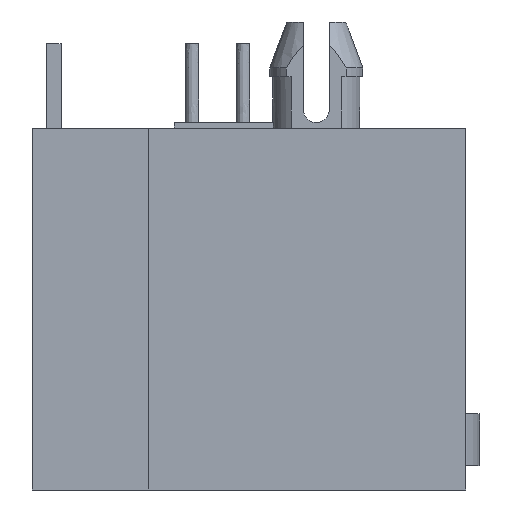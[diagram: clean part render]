
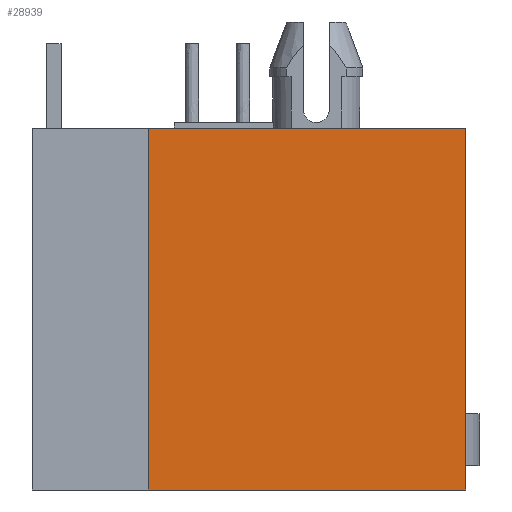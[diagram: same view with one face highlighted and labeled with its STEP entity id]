
A CAD part, left-side view. The second image highlights one B-rep face of the part: STEP entity #28939.
In plain terms, the highlighted planar face has unit normal (-1, 0, 0).
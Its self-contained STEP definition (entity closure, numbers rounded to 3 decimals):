
#2313=DIRECTION('',(0.,1.,0.));
#2314=VECTOR('',#2313,11.05);
#2315=CARTESIAN_POINT('',(-23.6,0.,0.));
#2316=LINE('',#2315,#2314);
#4565=DIRECTION('',(0.,0.,1.));
#4566=VECTOR('',#4565,12.6);
#4567=CARTESIAN_POINT('',(-23.6,0.,-12.6));
#4568=LINE('',#4567,#4566);
#5317=DIRECTION('',(0.,0.,1.));
#5318=VECTOR('',#5317,12.6);
#5319=CARTESIAN_POINT('',(-23.6,11.05,-12.6));
#5320=LINE('',#5319,#5318);
#5321=DIRECTION('',(0.,1.,0.));
#5322=VECTOR('',#5321,11.05);
#5323=CARTESIAN_POINT('',(-23.6,0.,-12.6));
#5324=LINE('',#5323,#5322);
#17801=CARTESIAN_POINT('',(-23.6,0.,-12.6));
#17802=CARTESIAN_POINT('',(-23.6,0.,0.));
#17803=VERTEX_POINT('',#17801);
#17804=VERTEX_POINT('',#17802);
#18787=CARTESIAN_POINT('',(-23.6,11.05,-12.6));
#18788=CARTESIAN_POINT('',(-23.6,11.05,0.));
#18789=VERTEX_POINT('',#18787);
#18790=VERTEX_POINT('',#18788);
#28928=CARTESIAN_POINT('',(-23.6,0.,-12.6));
#28929=DIRECTION('',(-1.,0.,0.));
#28930=DIRECTION('',(0.,0.,1.));
#28931=AXIS2_PLACEMENT_3D('',#28928,#28929,#28930);
#28932=PLANE('',#28931);
#28933=ORIENTED_EDGE('',*,*,#28922,.T.);
#28934=ORIENTED_EDGE('',*,*,#23881,.F.);
#28935=ORIENTED_EDGE('',*,*,#27509,.F.);
#28936=ORIENTED_EDGE('',*,*,#28486,.T.);
#28937=EDGE_LOOP('',(#28933,#28934,#28935,#28936));
#28938=FACE_OUTER_BOUND('',#28937,.F.);
#28939=ADVANCED_FACE('',(#28938),#28932,.T.);
#23881=EDGE_CURVE('',#17804,#18790,#2316,.T.);
#27509=EDGE_CURVE('',#17803,#17804,#4568,.T.);
#28486=EDGE_CURVE('',#17803,#18789,#5324,.T.);
#28922=EDGE_CURVE('',#18789,#18790,#5320,.T.);
